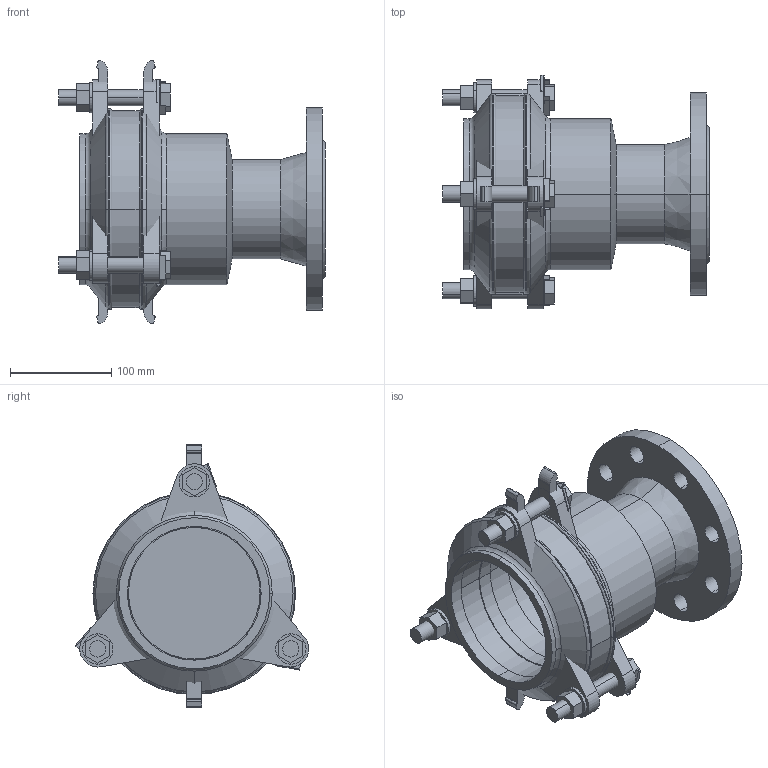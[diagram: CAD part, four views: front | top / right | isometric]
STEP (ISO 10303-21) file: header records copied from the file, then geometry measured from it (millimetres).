
FILE_DESCRIPTION(('STEP AP214'),'1');
FILE_NAME('EM00003944 DN 80-100.STP','2015-01-29T09:03:56',(' '),(' '),'Spatial InterOp 3D',' ',' ');
FILE_SCHEMA(('automotive_design'));
Length unit declared in the file: millimetre
Products named in the file (38): 3D-Objekt
Bounding box: 263 x 230.5 x 260 mm (x, y, z)
Volume: 2120919.6 mm3; surface area: 565301.1 mm2
Topology: 38 solids, 38 shells, 307 faces, 691 edges, 460 vertices
Faces by surface type: plane 186, cylinder 95, cone 14, torus 12
Entity records: 12021 total; most frequent: DIRECTION 1633, CARTESIAN_POINT 1496, ORIENTED_EDGE 1382, EDGE_CURVE 691, AXIS2_PLACEMENT_3D 597, VERTEX_POINT 460, LINE 439, VECTOR 439
